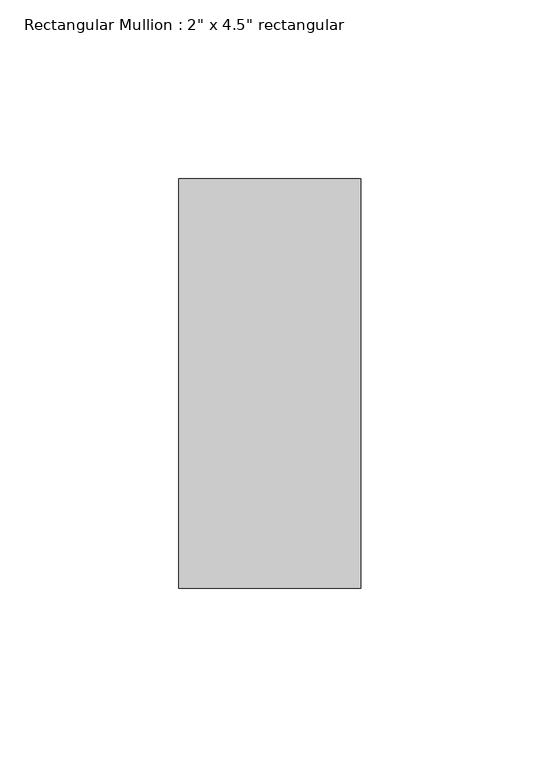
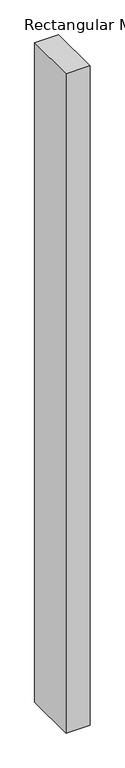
"""IFC4 building model written with IfcOpenShell, lengths in millimetres: member geometry."""

from ifc_helpers import new_model, si_unit, frame, origin, place, context, project, spatial, polyline, outline, extrude, source, transform, mapped, element, save


def member_57f2eb73(model_context):
    return source(origin(), model_context, "Body", "SweptSolid", [
        extrude(outline(polyline([(0.0, 57.15), (0.0, -57.15), (-50.8, -57.15), (-50.8, 57.15), (0.0, 57.15)])), frame((0.0, 0.0, -1472.6946375), z_axis=(0.0, 0.0, 1.0), x_axis=(1.0, 0.0, 0.0)), (0.0, 0.0, 1.0), 1472.6946375),
    ])


if __name__ == "__main__":
    model = new_model("IFC4")
    model_context = context("Model", 3, world=origin())
    ifc_project = project(units=[si_unit("LENGTHUNIT", "METRE", prefix="MILLI")], contexts=[model_context])
    site = spatial("IfcSite", under=ifc_project)
    building = spatial("IfcBuilding", under=site)
    placement = place(None, origin())
    member_shape = member_57f2eb73(model_context)
    element("IfcMember", 1, ObjectType="Rectangular Mullion : 2\" x 4.5\" rectangular", at=placement, inside=building, context=model_context, shape_type="MappedRepresentation", body=[
        mapped(member_shape, transform((0.0, 0.0, 0.0), x_axis=(1.0, 0.0, 0.0), y_axis=(0.0, 1.0, 0.0), z_axis=(0.0, 0.0, 1.0))),
    ])
    save(model, "model.ifc")
